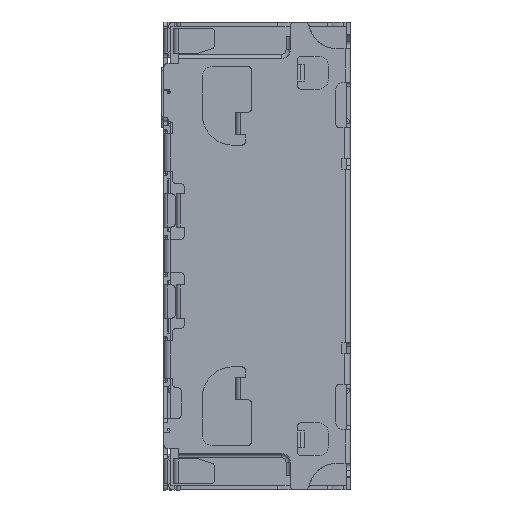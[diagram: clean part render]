
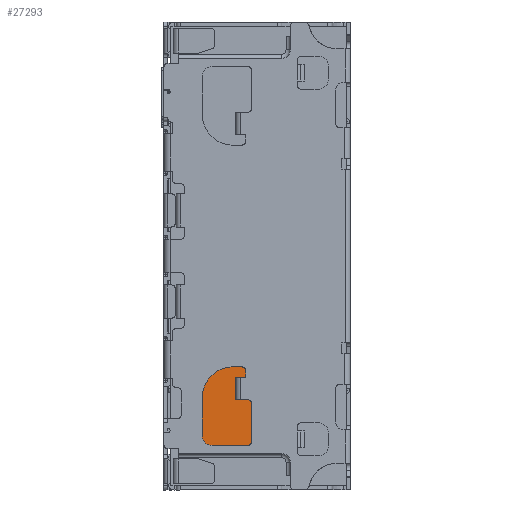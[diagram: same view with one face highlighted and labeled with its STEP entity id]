
A CAD part, left-side view. The second image highlights one B-rep face of the part: STEP entity #27293.
In plain terms, the highlighted planar face has unit normal (-1, 0, 0).
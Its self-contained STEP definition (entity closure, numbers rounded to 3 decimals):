
#28 = PLANE ( 'NONE',  #7442 ) ;
#270 = VERTEX_POINT ( 'NONE', #39142 ) ;
#948 = DIRECTION ( 'NONE',  ( 0., 1., 0. ) ) ;
#2659 = VECTOR ( 'NONE', #31611, 1000. ) ;
#2818 = EDGE_CURVE ( 'NONE', #40668, #11089, #41737, .T. ) ;
#2919 = EDGE_CURVE ( 'NONE', #20802, #19743, #13864, .T. ) ;
#3110 = EDGE_CURVE ( 'NONE', #270, #36179, #4002, .T. ) ;
#3159 = VECTOR ( 'NONE', #21152, 1000. ) ;
#3870 = FACE_OUTER_BOUND ( 'NONE', #12491, .T. ) ;
#4002 = LINE ( 'NONE', #26543, #8703 ) ;
#4145 = CARTESIAN_POINT ( 'NONE',  ( -4.8, 2.65, -8.65 ) ) ;
#4832 = CIRCLE ( 'NONE', #31687, 1.5 ) ;
#5190 = EDGE_CURVE ( 'NONE', #36179, #43906, #4832, .T. ) ;
#5313 = CARTESIAN_POINT ( 'NONE',  ( -4.8, 2.15, -9.15 ) ) ;
#5344 = VERTEX_POINT ( 'NONE', #7362 ) ;
#5951 = CARTESIAN_POINT ( 'NONE',  ( -4.8, 0.55, -6.95 ) ) ;
#6610 = CIRCLE ( 'NONE', #25801, 0.2 ) ;
#6733 = DIRECTION ( 'NONE',  ( 0., 1., 0. ) ) ;
#7045 = EDGE_CURVE ( 'NONE', #16109, #270, #6610, .T. ) ;
#7362 = CARTESIAN_POINT ( 'NONE',  ( -4.8, 1.045, -6.95 ) ) ;
#7442 = AXIS2_PLACEMENT_3D ( 'NONE', #32670, #21621, #43464 ) ;
#7825 = CARTESIAN_POINT ( 'NONE',  ( -4.8, 0.8, -5.85 ) ) ;
#8314 = VERTEX_POINT ( 'NONE', #43822 ) ;
#8703 = VECTOR ( 'NONE', #14796, 1000. ) ;
#9323 = DIRECTION ( 'NONE',  ( 0., 1., 0. ) ) ;
#9476 = VECTOR ( 'NONE', #28962, 1000. ) ;
#9662 = ORIENTED_EDGE ( 'NONE', *, *, #5190, .T. ) ;
#10023 = EDGE_CURVE ( 'NONE', #43906, #15863, #34633, .T. ) ;
#10045 = DIRECTION ( 'NONE',  ( 0., -1., 0. ) ) ;
#10246 = CARTESIAN_POINT ( 'NONE',  ( -4.8, 1.15, -5.35 ) ) ;
#11089 = VERTEX_POINT ( 'NONE', #20984 ) ;
#11100 = DIRECTION ( 'NONE',  ( -1., 0., 0. ) ) ;
#11247 = ORIENTED_EDGE ( 'NONE', *, *, #29045, .T. ) ;
#12257 = EDGE_CURVE ( 'NONE', #8314, #16109, #39557, .T. ) ;
#12350 = ORIENTED_EDGE ( 'NONE', *, *, #25219, .T. ) ;
#12491 = EDGE_LOOP ( 'NONE', ( #45402, #31920, #25883, #40105, #34812, #17648, #9662, #23499, #37477, #39100, #36173, #12350, #11247, #42296, #46554 ) ) ;
#13211 = EDGE_CURVE ( 'NONE', #38212, #19963, #38397, .T. ) ;
#13352 = CARTESIAN_POINT ( 'NONE',  ( -4.8, 0.25, -6.95 ) ) ;
#13379 = CARTESIAN_POINT ( 'NONE',  ( -4.8, 0.45, -9.15 ) ) ;
#13864 = LINE ( 'NONE', #47428, #42091 ) ;
#14362 = VECTOR ( 'NONE', #10045, 1000. ) ;
#14502 = CIRCLE ( 'NONE', #20652, 0.2 ) ;
#14702 = CARTESIAN_POINT ( 'NONE',  ( -4.8, 0.45, -8.95 ) ) ;
#14796 = DIRECTION ( 'NONE',  ( 0., 1., 0. ) ) ;
#14939 = DIRECTION ( 'NONE',  ( 0., 1., 0. ) ) ;
#15268 = VECTOR ( 'NONE', #9323, 1000. ) ;
#15751 = CIRCLE ( 'NONE', #27211, 0.5 ) ;
#15863 = VERTEX_POINT ( 'NONE', #4145 ) ;
#16109 = VERTEX_POINT ( 'NONE', #34134 ) ;
#17015 = CARTESIAN_POINT ( 'NONE',  ( -4.8, 1.045, -5.257 ) ) ;
#17648 = ORIENTED_EDGE ( 'NONE', *, *, #3110, .T. ) ;
#17719 = DIRECTION ( 'NONE',  ( 0., 0., 1. ) ) ;
#18353 = CARTESIAN_POINT ( 'NONE',  ( -4.8, 0.25, -7.15 ) ) ;
#19743 = VERTEX_POINT ( 'NONE', #13379 ) ;
#19963 = VERTEX_POINT ( 'NONE', #7825 ) ;
#20652 = AXIS2_PLACEMENT_3D ( 'NONE', #35601, #25028, #20969 ) ;
#20802 = VERTEX_POINT ( 'NONE', #5313 ) ;
#20827 = DIRECTION ( 'NONE',  ( 0., -1., 0. ) ) ;
#20907 = CARTESIAN_POINT ( 'NONE',  ( -4.8, 2.15, -8.65 ) ) ;
#20969 = DIRECTION ( 'NONE',  ( 0., 1., 0. ) ) ;
#20984 = CARTESIAN_POINT ( 'NONE',  ( -4.8, 0.8, -6.95 ) ) ;
#21152 = DIRECTION ( 'NONE',  ( 0., 1., 0. ) ) ;
#21609 = DIRECTION ( 'NONE',  ( -1., 0., 0. ) ) ;
#21621 = DIRECTION ( 'NONE',  ( 1., 0., 0. ) ) ;
#21656 = VECTOR ( 'NONE', #41380, 1000. ) ;
#22543 = CARTESIAN_POINT ( 'NONE',  ( -4.8, 0.45, -6.95 ) ) ;
#23499 = ORIENTED_EDGE ( 'NONE', *, *, #10023, .T. ) ;
#24069 = VECTOR ( 'NONE', #17719, 1000. ) ;
#24276 = CARTESIAN_POINT ( 'NONE',  ( -4.8, 2.65, -6.85 ) ) ;
#24369 = EDGE_CURVE ( 'NONE', #15863, #20802, #15751, .T. ) ;
#25028 = DIRECTION ( 'NONE',  ( -1., 0., 0. ) ) ;
#25219 = EDGE_CURVE ( 'NONE', #26275, #30248, #35896, .T. ) ;
#25801 = AXIS2_PLACEMENT_3D ( 'NONE', #38497, #35096, #46609 ) ;
#25883 = ORIENTED_EDGE ( 'NONE', *, *, #26366, .F. ) ;
#26275 = VERTEX_POINT ( 'NONE', #27051 ) ;
#26366 = EDGE_CURVE ( 'NONE', #8314, #19963, #39303, .T. ) ;
#26543 = CARTESIAN_POINT ( 'NONE',  ( -4.8, 2.65, -5.35 ) ) ;
#27051 = CARTESIAN_POINT ( 'NONE',  ( -4.8, 0.25, -8.95 ) ) ;
#27211 = AXIS2_PLACEMENT_3D ( 'NONE', #20907, #21609, #6733 ) ;
#27293 = ADVANCED_FACE ( 'NONE', ( #3870 ), #28, .F. ) ;
#28481 = DIRECTION ( 'NONE',  ( 0., 1., 0. ) ) ;
#28962 = DIRECTION ( 'NONE',  ( 0., 0., 1. ) ) ;
#29045 = EDGE_CURVE ( 'NONE', #30248, #40668, #14502, .T. ) ;
#30066 = CIRCLE ( 'NONE', #36987, 0.2 ) ;
#30248 = VERTEX_POINT ( 'NONE', #18353 ) ;
#31611 = DIRECTION ( 'NONE',  ( 0., 0., 1. ) ) ;
#31687 = AXIS2_PLACEMENT_3D ( 'NONE', #44389, #41748, #948 ) ;
#31845 = EDGE_CURVE ( 'NONE', #19743, #26275, #30066, .T. ) ;
#31891 = VECTOR ( 'NONE', #28481, 1000. ) ;
#31920 = ORIENTED_EDGE ( 'NONE', *, *, #13211, .T. ) ;
#32083 = CARTESIAN_POINT ( 'NONE',  ( -4.8, 2.15, -5.85 ) ) ;
#32670 = CARTESIAN_POINT ( 'NONE',  ( -4.8, 4.17, 11.1 ) ) ;
#34134 = CARTESIAN_POINT ( 'NONE',  ( -4.8, 0.55, -5.55 ) ) ;
#34633 = LINE ( 'NONE', #44956, #21656 ) ;
#34812 = ORIENTED_EDGE ( 'NONE', *, *, #7045, .T. ) ;
#35096 = DIRECTION ( 'NONE',  ( -1., 0., 0. ) ) ;
#35601 = CARTESIAN_POINT ( 'NONE',  ( -4.8, 0.45, -7.15 ) ) ;
#35896 = LINE ( 'NONE', #13352, #2659 ) ;
#36173 = ORIENTED_EDGE ( 'NONE', *, *, #31845, .T. ) ;
#36179 = VERTEX_POINT ( 'NONE', #10246 ) ;
#36987 = AXIS2_PLACEMENT_3D ( 'NONE', #14702, #11100, #14939 ) ;
#37477 = ORIENTED_EDGE ( 'NONE', *, *, #24369, .T. ) ;
#38175 = CARTESIAN_POINT ( 'NONE',  ( -4.8, 1.045, -5.85 ) ) ;
#38212 = VERTEX_POINT ( 'NONE', #38175 ) ;
#38397 = LINE ( 'NONE', #43150, #14362 ) ;
#38497 = CARTESIAN_POINT ( 'NONE',  ( -4.8, 0.75, -5.55 ) ) ;
#39100 = ORIENTED_EDGE ( 'NONE', *, *, #2919, .T. ) ;
#39142 = CARTESIAN_POINT ( 'NONE',  ( -4.8, 0.75, -5.35 ) ) ;
#39303 = LINE ( 'NONE', #32083, #31891 ) ;
#39340 = LINE ( 'NONE', #17015, #24069 ) ;
#39557 = LINE ( 'NONE', #47427, #9476 ) ;
#40105 = ORIENTED_EDGE ( 'NONE', *, *, #12257, .T. ) ;
#40668 = VERTEX_POINT ( 'NONE', #22543 ) ;
#41380 = DIRECTION ( 'NONE',  ( 0., 0., -1. ) ) ;
#41737 = LINE ( 'NONE', #5951, #15268 ) ;
#41748 = DIRECTION ( 'NONE',  ( -1., 0., 0. ) ) ;
#42091 = VECTOR ( 'NONE', #20827, 1000. ) ;
#42294 = CARTESIAN_POINT ( 'NONE',  ( -4.8, 4.17, -6.95 ) ) ;
#42296 = ORIENTED_EDGE ( 'NONE', *, *, #2818, .T. ) ;
#42530 = LINE ( 'NONE', #42294, #3159 ) ;
#43150 = CARTESIAN_POINT ( 'NONE',  ( -4.8, 4.17, -5.85 ) ) ;
#43464 = DIRECTION ( 'NONE',  ( 0., 0., -1. ) ) ;
#43822 = CARTESIAN_POINT ( 'NONE',  ( -4.8, 0.55, -5.85 ) ) ;
#43906 = VERTEX_POINT ( 'NONE', #24276 ) ;
#44389 = CARTESIAN_POINT ( 'NONE',  ( -4.8, 1.15, -6.85 ) ) ;
#44956 = CARTESIAN_POINT ( 'NONE',  ( -4.8, 2.65, -9.15 ) ) ;
#45226 = EDGE_CURVE ( 'NONE', #11089, #5344, #42530, .T. ) ;
#45402 = ORIENTED_EDGE ( 'NONE', *, *, #47462, .T. ) ;
#46554 = ORIENTED_EDGE ( 'NONE', *, *, #45226, .T. ) ;
#46609 = DIRECTION ( 'NONE',  ( 0., 1., 0. ) ) ;
#47427 = CARTESIAN_POINT ( 'NONE',  ( -4.8, 0.55, -6.95 ) ) ;
#47428 = CARTESIAN_POINT ( 'NONE',  ( -4.8, 2.65, -9.15 ) ) ;
#47462 = EDGE_CURVE ( 'NONE', #5344, #38212, #39340, .T. ) ;
